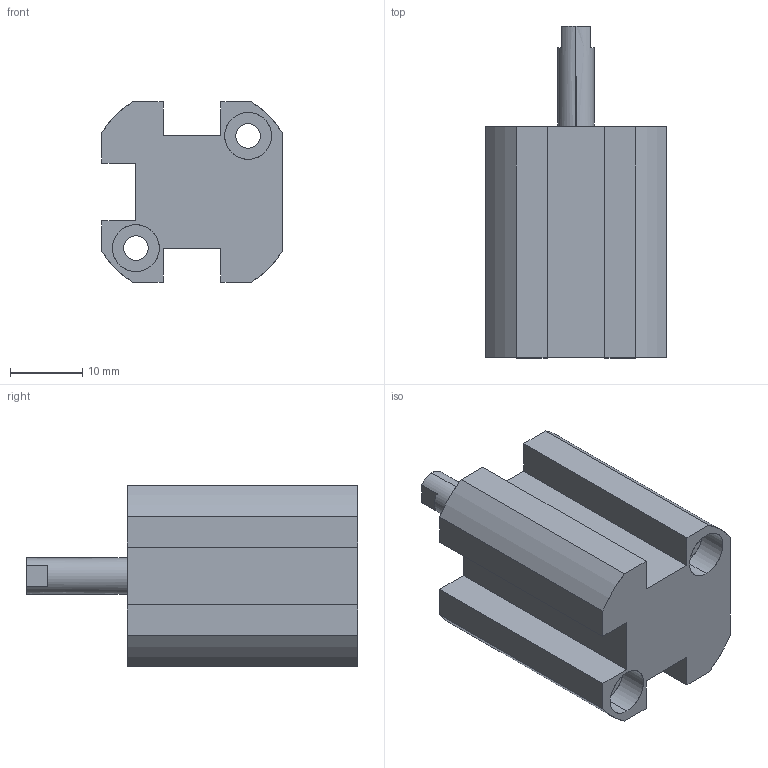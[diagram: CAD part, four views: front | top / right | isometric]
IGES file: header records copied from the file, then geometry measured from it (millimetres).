
Start section: SolidWorks IGES file using analytic representation for surfaces
Global section: file name: C:\Users\Toshiba\Desktop\XC#0-10D-10.IGS; native system: SolidWorks 2014; preprocessor: SolidWorks 2014; author: Toshiba; date: 160523.143418; units: millimetre
Bounding box: 25 x 46 x 25 mm (x, y, z)
Surface area: 6129 mm2 (no closed solid volume)
Topology: 0 solids, 0 shells, 72 faces, 1163 edges, 1161 vertices
Faces by surface type: revolution 39, bspline 33
